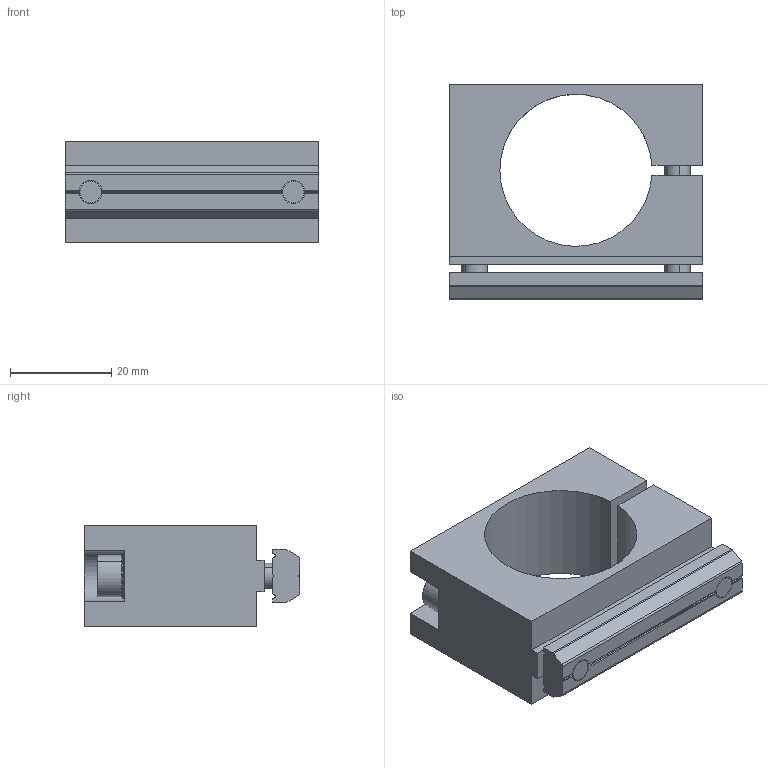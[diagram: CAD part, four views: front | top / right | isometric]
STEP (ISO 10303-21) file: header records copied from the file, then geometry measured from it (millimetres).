
FILE_DESCRIPTION (( 'STEP AP214' ), '1' );
FILE_NAME ('SMBC-3050T.STEP', '2022-12-09T00:42:53', ( '' ), ( '' ), 'SwSTEP 2.0', 'SolidWorks 2018', '' );
FILE_SCHEMA (( 'AUTOMOTIVE_DESIGN' ));
Length unit declared in the file: millimetre
Products named in the file (5): PTS-M5; PTN-M5P40; PTC-M5L35; SMBC-3050T; SMBC-3050
Assembly tree (6 placements, depth 2):
  SMBC-3050T
    SMBC-3050
    PTN-M5P40
    PTC-M5L35  x2
    PTS-M5  x2
Bounding box: 50 x 42.55 x 20 mm (x, y, z)
Volume: 21638.5 mm3; surface area: 12310.6 mm2
Topology: 6 solids, 6 shells, 457 faces, 1335 edges, 886 vertices
Faces by surface type: plane 387, cylinder 58, cone 12
Entity records: 9423 total; most frequent: CARTESIAN_POINT 1759, ORIENTED_EDGE 1602, DIRECTION 1559, EDGE_CURVE 801, VERTEX_POINT 532, AXIS2_PLACEMENT_3D 524, LINE 511, VECTOR 511
